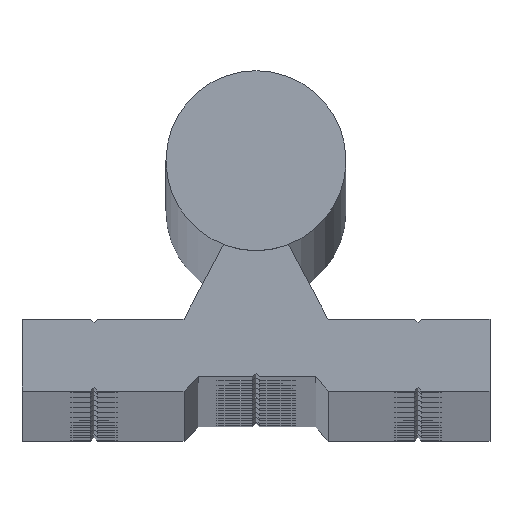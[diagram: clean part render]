
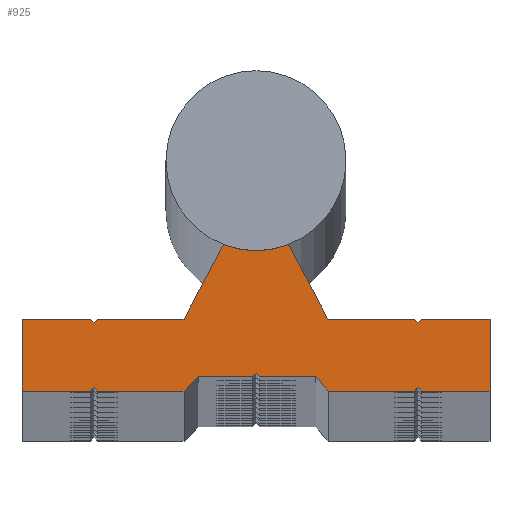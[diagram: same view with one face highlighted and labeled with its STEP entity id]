
A CAD part, top view. The second image highlights one B-rep face of the part: STEP entity #925.
In plain terms, the highlighted planar face has unit normal (0, 0, 1).
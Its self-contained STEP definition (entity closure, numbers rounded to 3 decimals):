
#925=ADVANCED_FACE('',(#2074),#2076,.T.);
#2074=FACE_BOUND('',#2075,.T.);
#2075=EDGE_LOOP('',(#4841,#4842,#4843,#4844,#4845,#4846,#4847,#4848,#4849,#4850,
#4851,#4852,#4853,#4854,#4855,#4856,#4857,#4858,#4859,#4860,#4861,#4862,#4863,#4864,
#4865,#4866,#4867));
#2076=PLANE('',#2077);
#2077=AXIS2_PLACEMENT_3D('',#2078,#2079,#2080);
#2078=CARTESIAN_POINT('',(0.,0.,4000.));
#2079=DIRECTION('',(0.,0.,1.));
#2080=DIRECTION('',(1.,0.,0.));
#4841=ORIENTED_EDGE('',*,*,#7035,.T.);
#4842=ORIENTED_EDGE('',*,*,#7036,.T.);
#4843=ORIENTED_EDGE('',*,*,#7037,.T.);
#4844=ORIENTED_EDGE('',*,*,#7038,.T.);
#4845=ORIENTED_EDGE('',*,*,#7039,.T.);
#4846=ORIENTED_EDGE('',*,*,#7040,.T.);
#4847=ORIENTED_EDGE('',*,*,#7041,.T.);
#4848=ORIENTED_EDGE('',*,*,#7042,.T.);
#4849=ORIENTED_EDGE('',*,*,#7043,.T.);
#4850=ORIENTED_EDGE('',*,*,#7044,.T.);
#4851=ORIENTED_EDGE('',*,*,#7032,.T.);
#4852=ORIENTED_EDGE('',*,*,#7045,.T.);
#4853=ORIENTED_EDGE('',*,*,#7046,.T.);
#4854=ORIENTED_EDGE('',*,*,#7047,.T.);
#4855=ORIENTED_EDGE('',*,*,#7048,.T.);
#4856=ORIENTED_EDGE('',*,*,#7049,.T.);
#4857=ORIENTED_EDGE('',*,*,#7050,.T.);
#4858=ORIENTED_EDGE('',*,*,#7051,.T.);
#4859=ORIENTED_EDGE('',*,*,#7052,.T.);
#4860=ORIENTED_EDGE('',*,*,#7053,.T.);
#4861=ORIENTED_EDGE('',*,*,#7054,.T.);
#4862=ORIENTED_EDGE('',*,*,#7055,.T.);
#4863=ORIENTED_EDGE('',*,*,#6841,.T.);
#4864=ORIENTED_EDGE('',*,*,#6849,.T.);
#4865=ORIENTED_EDGE('',*,*,#6909,.T.);
#4866=ORIENTED_EDGE('',*,*,#6974,.T.);
#4867=ORIENTED_EDGE('',*,*,#7056,.T.);
#6841=EDGE_CURVE('',#8140,#8138,#8141,.T.);
#6849=EDGE_CURVE('',#8138,#8153,#8155,.T.);
#6909=EDGE_CURVE('',#8153,#8253,#8255,.T.);
#6974=EDGE_CURVE('',#8253,#8362,#8364,.T.);
#7032=EDGE_CURVE('',#8462,#8460,#8463,.T.);
#7035=EDGE_CURVE('',#8467,#8468,#8469,.T.);
#7036=EDGE_CURVE('',#8468,#8470,#8471,.T.);
#7037=EDGE_CURVE('',#8470,#8472,#8473,.T.);
#7038=EDGE_CURVE('',#8472,#8474,#8475,.T.);
#7039=EDGE_CURVE('',#8474,#8476,#8477,.T.);
#7040=EDGE_CURVE('',#8476,#8478,#8479,.T.);
#7041=EDGE_CURVE('',#8478,#8480,#8481,.T.);
#7042=EDGE_CURVE('',#8480,#8482,#8483,.T.);
#7043=EDGE_CURVE('',#8482,#8484,#8485,.T.);
#7044=EDGE_CURVE('',#8484,#8462,#8486,.T.);
#7045=EDGE_CURVE('',#8460,#8487,#8488,.T.);
#7046=EDGE_CURVE('',#8487,#8489,#8490,.T.);
#7047=EDGE_CURVE('',#8489,#8491,#8492,.T.);
#7048=EDGE_CURVE('',#8491,#8493,#8494,.T.);
#7049=EDGE_CURVE('',#8493,#8495,#8496,.T.);
#7050=EDGE_CURVE('',#8495,#8497,#8498,.T.);
#7051=EDGE_CURVE('',#8497,#8499,#8500,.T.);
#7052=EDGE_CURVE('',#8499,#8501,#8502,.T.);
#7053=EDGE_CURVE('',#8501,#8503,#8504,.T.);
#7054=EDGE_CURVE('',#8503,#8505,#8506,.T.);
#7055=EDGE_CURVE('',#8505,#8140,#8507,.T.);
#7056=EDGE_CURVE('',#8362,#8467,#8508,.T.);
#8138=VERTEX_POINT('',#11685);
#8140=VERTEX_POINT('',#11689);
#8141=LINE('',#11690,#11691);
#8153=VERTEX_POINT('',#11718);
#8155=LINE('',#11722,#11723);
#8253=VERTEX_POINT('',#11977);
#8255=LINE('',#11981,#11982);
#8362=VERTEX_POINT('',#12258);
#8364=LINE('',#12262,#12263);
#8460=VERTEX_POINT('',#12528);
#8462=VERTEX_POINT('',#12532);
#8463=CIRCLE('',#12533,12.5);
#8467=VERTEX_POINT('',#12610);
#8468=VERTEX_POINT('',#12611);
#8469=LINE('',#12612,#12613);
#8470=VERTEX_POINT('',#12615);
#8471=LINE('',#12616,#12617);
#8472=VERTEX_POINT('',#12619);
#8473=LINE('',#12620,#12621);
#8474=VERTEX_POINT('',#12623);
#8475=LINE('',#12624,#12625);
#8476=VERTEX_POINT('',#12627);
#8477=LINE('',#12628,#12629);
#8478=VERTEX_POINT('',#12631);
#8479=LINE('',#12632,#12633);
#8480=VERTEX_POINT('',#12635);
#8481=LINE('',#12636,#12637);
#8482=VERTEX_POINT('',#12639);
#8483=LINE('',#12640,#12641);
#8484=VERTEX_POINT('',#12643);
#8485=LINE('',#12644,#12645);
#8486=LINE('',#12647,#12648);
#8487=VERTEX_POINT('',#12650);
#8488=LINE('',#12651,#12652);
#8489=VERTEX_POINT('',#12654);
#8490=LINE('',#12655,#12656);
#8491=VERTEX_POINT('',#12658);
#8492=LINE('',#12659,#12660);
#8493=VERTEX_POINT('',#12662);
#8494=LINE('',#12663,#12664);
#8495=VERTEX_POINT('',#12666);
#8496=LINE('',#12667,#12668);
#8497=VERTEX_POINT('',#12670);
#8498=LINE('',#12671,#12672);
#8499=VERTEX_POINT('',#12674);
#8500=LINE('',#12675,#12676);
#8501=VERTEX_POINT('',#12678);
#8502=LINE('',#12679,#12680);
#8503=VERTEX_POINT('',#12682);
#8504=LINE('',#12683,#12684);
#8505=VERTEX_POINT('',#12686);
#8506=LINE('',#12687,#12688);
#8507=LINE('',#12690,#12691);
#8508=LINE('',#12693,#12694);
#11685=CARTESIAN_POINT('',(-0.5,-30.,4000.));
#11689=CARTESIAN_POINT('',(-8.,-30.,4000.));
#11690=CARTESIAN_POINT('',(-8.,-30.,4000.));
#11691=VECTOR('',#11692,1.);
#11692=DIRECTION('',(1.,0.,0.));
#11718=CARTESIAN_POINT('',(0.,-29.5,4000.));
#11722=CARTESIAN_POINT('',(-0.5,-30.,4000.));
#11723=VECTOR('',#11724,1.);
#11724=DIRECTION('',(0.707,0.707,0.));
#11977=CARTESIAN_POINT('',(0.5,-30.,4000.));
#11981=CARTESIAN_POINT('',(0.,-29.5,4000.));
#11982=VECTOR('',#11983,1.);
#11983=DIRECTION('',(0.707,-0.707,0.));
#12258=CARTESIAN_POINT('',(8.308,-30.,4000.));
#12262=CARTESIAN_POINT('',(0.5,-30.,4000.));
#12263=VECTOR('',#12264,1.);
#12264=DIRECTION('',(1.,0.,0.));
#12528=CARTESIAN_POINT('',(-4.5,-11.662,4000.));
#12532=CARTESIAN_POINT('',(4.5,-11.662,4000.));
#12533=AXIS2_PLACEMENT_3D('',#12534,#12535,#12536);
#12534=CARTESIAN_POINT('',(0.,0.,4000.));
#12535=DIRECTION('',(0.,0.,-1.));
#12536=DIRECTION('',(0.36,-0.933,0.));
#12610=CARTESIAN_POINT('',(10.,-32.,4000.));
#12611=CARTESIAN_POINT('',(22.,-32.,4000.));
#12612=CARTESIAN_POINT('',(10.,-32.,4000.));
#12613=VECTOR('',#12614,1.);
#12614=DIRECTION('',(1.,0.,0.));
#12615=CARTESIAN_POINT('',(22.5,-31.5,4000.));
#12616=CARTESIAN_POINT('',(22.,-32.,4000.));
#12617=VECTOR('',#12618,1.);
#12618=DIRECTION('',(0.707,0.707,0.));
#12619=CARTESIAN_POINT('',(23.,-32.,4000.));
#12620=CARTESIAN_POINT('',(22.5,-31.5,4000.));
#12621=VECTOR('',#12622,1.);
#12622=DIRECTION('',(0.707,-0.707,0.));
#12623=CARTESIAN_POINT('',(32.5,-32.,4000.));
#12624=CARTESIAN_POINT('',(23.,-32.,4000.));
#12625=VECTOR('',#12626,1.);
#12626=DIRECTION('',(1.,0.,0.));
#12627=CARTESIAN_POINT('',(32.5,-22.,4000.));
#12628=CARTESIAN_POINT('',(32.5,-32.,4000.));
#12629=VECTOR('',#12630,1.);
#12630=DIRECTION('',(0.,1.,0.));
#12631=CARTESIAN_POINT('',(23.,-22.,4000.));
#12632=CARTESIAN_POINT('',(32.5,-22.,4000.));
#12633=VECTOR('',#12634,1.);
#12634=DIRECTION('',(-1.,0.,0.));
#12635=CARTESIAN_POINT('',(22.5,-22.5,4000.));
#12636=CARTESIAN_POINT('',(23.,-22.,4000.));
#12637=VECTOR('',#12638,1.);
#12638=DIRECTION('',(-0.707,-0.707,0.));
#12639=CARTESIAN_POINT('',(22.,-22.,4000.));
#12640=CARTESIAN_POINT('',(22.5,-22.5,4000.));
#12641=VECTOR('',#12642,1.);
#12642=DIRECTION('',(-0.707,0.707,0.));
#12643=CARTESIAN_POINT('',(10.,-22.,4000.));
#12644=CARTESIAN_POINT('',(22.,-22.,4000.));
#12645=VECTOR('',#12646,1.);
#12646=DIRECTION('',(-1.,0.,0.));
#12647=CARTESIAN_POINT('',(10.,-22.,4000.));
#12648=VECTOR('',#12649,1.);
#12649=DIRECTION('',(-0.47,0.883,0.));
#12650=CARTESIAN_POINT('',(-10.,-22.,4000.));
#12651=CARTESIAN_POINT('',(-4.5,-11.662,4000.));
#12652=VECTOR('',#12653,1.);
#12653=DIRECTION('',(-0.47,-0.883,0.));
#12654=CARTESIAN_POINT('',(-22.,-22.,4000.));
#12655=CARTESIAN_POINT('',(-10.,-22.,4000.));
#12656=VECTOR('',#12657,1.);
#12657=DIRECTION('',(-1.,0.,0.));
#12658=CARTESIAN_POINT('',(-22.5,-22.5,4000.));
#12659=CARTESIAN_POINT('',(-22.,-22.,4000.));
#12660=VECTOR('',#12661,1.);
#12661=DIRECTION('',(-0.707,-0.707,0.));
#12662=CARTESIAN_POINT('',(-23.,-22.,4000.));
#12663=CARTESIAN_POINT('',(-22.5,-22.5,4000.));
#12664=VECTOR('',#12665,1.);
#12665=DIRECTION('',(-0.707,0.707,0.));
#12666=CARTESIAN_POINT('',(-32.5,-22.,4000.));
#12667=CARTESIAN_POINT('',(-23.,-22.,4000.));
#12668=VECTOR('',#12669,1.);
#12669=DIRECTION('',(-1.,0.,0.));
#12670=CARTESIAN_POINT('',(-32.5,-32.,4000.));
#12671=CARTESIAN_POINT('',(-32.5,-22.,4000.));
#12672=VECTOR('',#12673,1.);
#12673=DIRECTION('',(0.,-1.,0.));
#12674=CARTESIAN_POINT('',(-23.,-32.,4000.));
#12675=CARTESIAN_POINT('',(-32.5,-32.,4000.));
#12676=VECTOR('',#12677,1.);
#12677=DIRECTION('',(1.,0.,0.));
#12678=CARTESIAN_POINT('',(-22.5,-31.5,4000.));
#12679=CARTESIAN_POINT('',(-23.,-32.,4000.));
#12680=VECTOR('',#12681,1.);
#12681=DIRECTION('',(0.707,0.707,0.));
#12682=CARTESIAN_POINT('',(-22.,-32.,4000.));
#12683=CARTESIAN_POINT('',(-22.5,-31.5,4000.));
#12684=VECTOR('',#12685,1.);
#12685=DIRECTION('',(0.707,-0.707,0.));
#12686=CARTESIAN_POINT('',(-10.,-32.,4000.));
#12687=CARTESIAN_POINT('',(-22.,-32.,4000.));
#12688=VECTOR('',#12689,1.);
#12689=DIRECTION('',(1.,0.,0.));
#12690=CARTESIAN_POINT('',(-10.,-32.,4000.));
#12691=VECTOR('',#12692,1.);
#12692=DIRECTION('',(0.707,0.707,0.));
#12693=CARTESIAN_POINT('',(8.308,-30.,4000.));
#12694=VECTOR('',#12695,1.);
#12695=DIRECTION('',(0.646,-0.764,0.));
